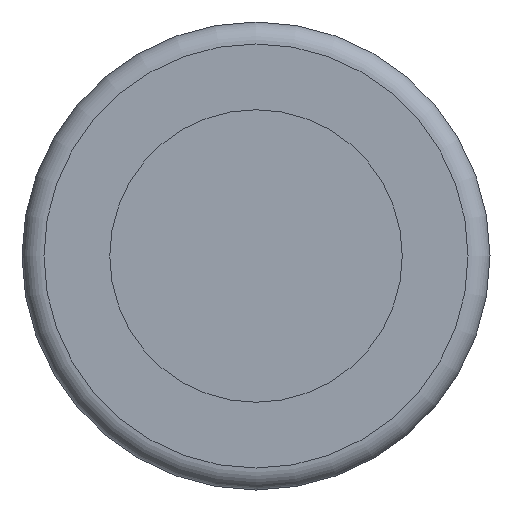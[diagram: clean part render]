
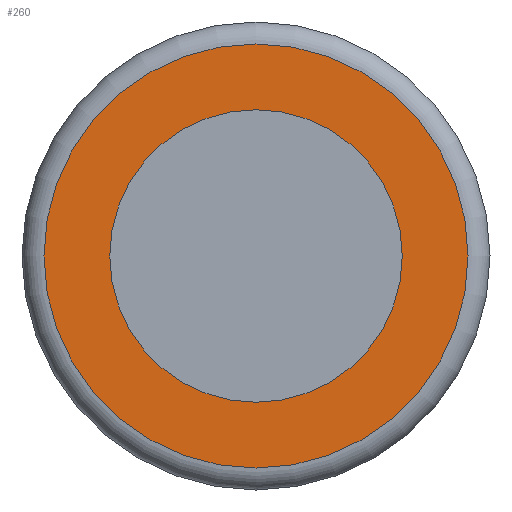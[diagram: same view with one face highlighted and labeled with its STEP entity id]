
A CAD part, left-side view. The second image highlights one B-rep face of the part: STEP entity #260.
In plain terms, the highlighted planar face has unit normal (-1, 0, 0).
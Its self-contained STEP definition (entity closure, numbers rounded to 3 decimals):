
#209=CARTESIAN_POINT('',(130.0,14.5,0.));
#210=VERTEX_POINT('',#209);
#211=CARTESIAN_POINT('',(130.0,0.0,0.0));
#212=DIRECTION('',(1.0,0.0,0.0));
#213=DIRECTION('',(0.0,-1.0,0.0));
#214=AXIS2_PLACEMENT_3D('',#211,#212,#213);
#215=CIRCLE('',#214,14.5);
#216=EDGE_CURVE('',#210,#210,#215,.T.);
#241=CARTESIAN_POINT('',(130.0,0.0,0.0));
#242=DIRECTION('',(-1.0,0.0,0.0));
#243=DIRECTION('',(0.0,0.0,1.0));
#244=AXIS2_PLACEMENT_3D('',#241,#242,#243);
#245=PLANE('',#244);
#246=ORIENTED_EDGE('',*,*,#216,.F.);
#247=EDGE_LOOP('',(#246));
#248=FACE_OUTER_BOUND('',#247,.T.);
#249=CARTESIAN_POINT('',(130.0,10.0,0.));
#250=VERTEX_POINT('',#249);
#251=CARTESIAN_POINT('',(130.0,0.0,0.0));
#252=DIRECTION('',(1.0,0.0,0.0));
#253=DIRECTION('',(0.0,-1.0,0.0));
#254=AXIS2_PLACEMENT_3D('',#251,#252,#253);
#255=CIRCLE('',#254,10.0);
#256=EDGE_CURVE('',#250,#250,#255,.T.);
#257=ORIENTED_EDGE('',*,*,#256,.T.);
#258=EDGE_LOOP('',(#257));
#259=FACE_BOUND('',#258,.T.);
#260=ADVANCED_FACE('',(#248,#259),#245,.T.);
